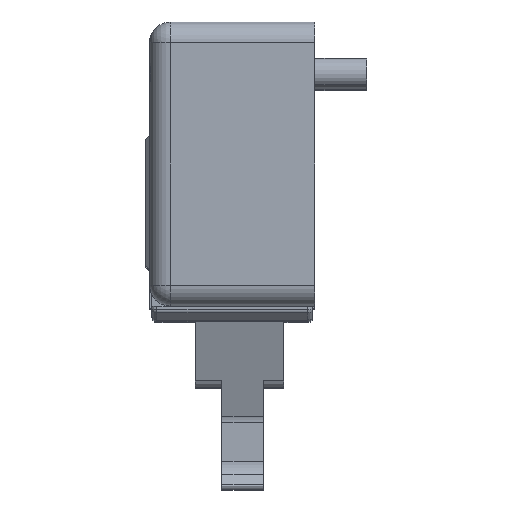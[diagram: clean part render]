
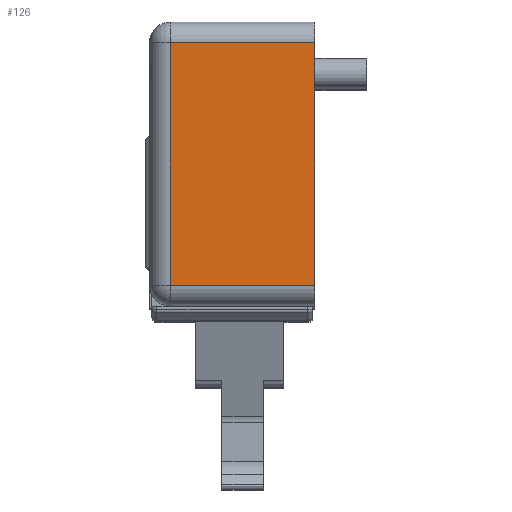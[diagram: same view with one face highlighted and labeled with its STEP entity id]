
A CAD part, top view. The second image highlights one B-rep face of the part: STEP entity #126.
In plain terms, the highlighted planar face has unit normal (0, 0, 1).
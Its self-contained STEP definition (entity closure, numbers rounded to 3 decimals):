
#126=ADVANCED_FACE('',(#671),#670,.T.);
#670=PLANE('',#4792);
#671=FACE_OUTER_BOUND('',#4793,.T.);
#4789=CARTESIAN_POINT('',(-15.4,-35.35,62.2));
#4790=DIRECTION('',(0.,0.,1.));
#4791=DIRECTION('',(1.,0.,0.));
#4792=AXIS2_PLACEMENT_3D('',#4789,#4790,#4791);
#4793=EDGE_LOOP('',(#6988,#6989,#6990,#6991));
#6988=ORIENTED_EDGE('',*,*,#9287,.F.);
#6989=ORIENTED_EDGE('',*,*,#9358,.T.);
#6990=ORIENTED_EDGE('',*,*,#9355,.T.);
#6991=ORIENTED_EDGE('',*,*,#9359,.F.);
#9287=EDGE_CURVE('',#10572,#10579,#10580,.T.);
#9355=EDGE_CURVE('',#11046,#11047,#11048,.T.);
#9358=EDGE_CURVE('',#10572,#11046,#11066,.T.);
#9359=EDGE_CURVE('',#10579,#11047,#11072,.T.);
#10572=VERTEX_POINT('',#18477);
#10579=VERTEX_POINT('',#18482);
#10580=LINE('',#18483,#18484);
#11046=VERTEX_POINT('',#18756);
#11047=VERTEX_POINT('',#18757);
#11048=LINE('',#18758,#18759);
#11066=LINE('',#18769,#18770);
#11072=LINE('',#18772,#18773);
#18477=CARTESIAN_POINT('',(-14.,-9.5,62.2));
#18482=CARTESIAN_POINT('',(0.,-9.5,62.2));
#18483=CARTESIAN_POINT('',(-14.,-9.5,62.2));
#18484=VECTOR('',#18485,14.);
#18485=DIRECTION('',(1.,0.,0.));
#18756=CARTESIAN_POINT('',(-14.,-33.,62.2));
#18757=CARTESIAN_POINT('',(0.,-33.,62.2));
#18758=CARTESIAN_POINT('',(-14.,-33.,62.2));
#18759=VECTOR('',#18760,14.);
#18760=DIRECTION('',(1.,0.,0.));
#18769=CARTESIAN_POINT('',(-14.,-9.5,62.2));
#18770=VECTOR('',#18771,23.5);
#18771=DIRECTION('',(0.,-1.,0.));
#18772=CARTESIAN_POINT('',(0.,-9.5,62.2));
#18773=VECTOR('',#18774,23.5);
#18774=DIRECTION('',(0.,-1.,0.));
